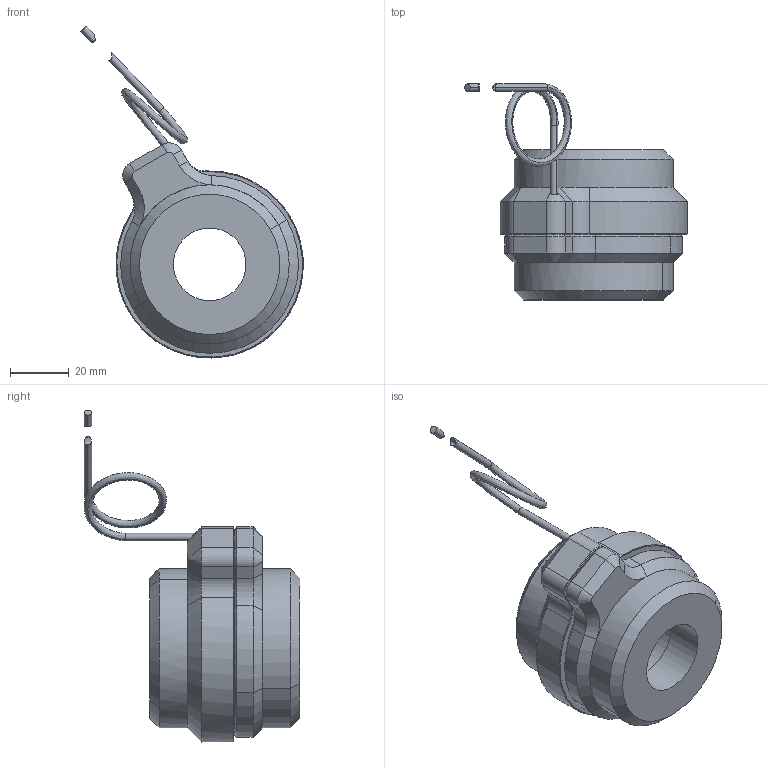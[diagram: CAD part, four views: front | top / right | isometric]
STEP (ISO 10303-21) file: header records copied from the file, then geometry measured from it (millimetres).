
FILE_DESCRIPTION (( 'STEP AP214' ), '1' );
FILE_NAME ('CB-19.STEP', '2016-05-26T13:36:38', ( '' ), ( '' ), 'SwSTEP 2.0', 'SolidWorks 2016', '' );
FILE_SCHEMA (( 'AUTOMOTIVE_DESIGN' ));
Length unit declared in the file: inch
Products named in the file (1): CB-19
Bounding box: 75.37 x 73.16 x 112.58 mm (x, y, z)
Volume: 113634.2 mm3; surface area: 20815.9 mm2
Topology: 2 solids, 2 shells, 95 faces, 208 edges, 119 vertices
Faces by surface type: cylinder 34, cone 30, plane 27, bspline 4
Entity records: 3624 total; most frequent: CARTESIAN_POINT 1161, DIRECTION 465, ORIENTED_EDGE 412, EDGE_CURVE 206, AXIS2_PLACEMENT_3D 179, VERTEX_POINT 119, VECTOR 107, LINE 107
